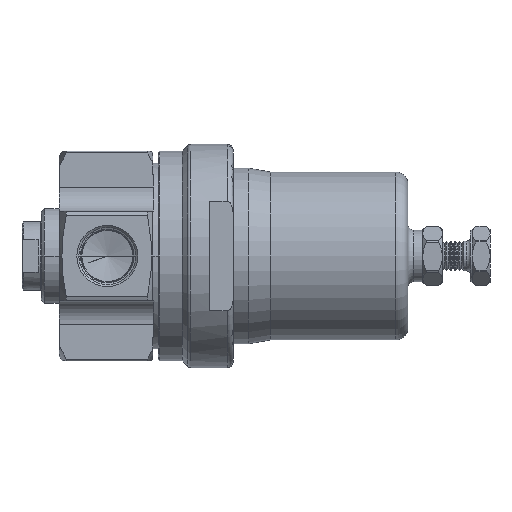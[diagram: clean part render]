
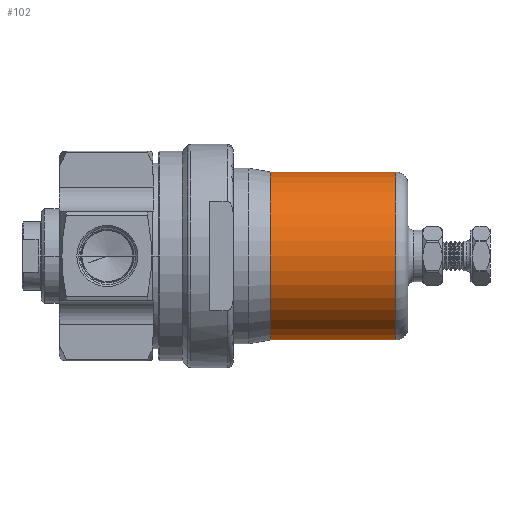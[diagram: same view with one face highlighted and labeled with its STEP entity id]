
A CAD part, front view. The second image highlights one B-rep face of the part: STEP entity #102.
In plain terms, the highlighted cylindrical face has radius 17.78 mm (diameter 35.56 mm), a partial arc.
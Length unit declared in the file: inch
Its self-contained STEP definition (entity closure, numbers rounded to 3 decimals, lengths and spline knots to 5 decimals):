
#102 = ADVANCED_FACE ( 'NONE', ( #8490 ), #8657, .T. ) ;
#442 = EDGE_LOOP ( 'NONE', ( #6661, #883, #4037, #6287 ) ) ;
#616 = VERTEX_POINT ( 'NONE', #2454 ) ;
#690 = EDGE_CURVE ( 'NONE', #3302, #9272, #10650, .T. ) ;
#714 = DIRECTION ( 'NONE',  ( -1., 0., 0. ) ) ;
#883 = ORIENTED_EDGE ( 'NONE', *, *, #7159, .T. ) ;
#1305 = AXIS2_PLACEMENT_3D ( 'NONE', #11556, #6055, #11499 ) ;
#1859 = DIRECTION ( 'NONE',  ( -1., 0., 0. ) ) ;
#2019 = DIRECTION ( 'NONE',  ( 0., 1., 0. ) ) ;
#2074 = CARTESIAN_POINT ( 'NONE',  ( 1.225, 0., 0. ) ) ;
#2454 = CARTESIAN_POINT ( 'NONE',  ( 2.955, -0.7, 0. ) ) ;
#2981 = DIRECTION ( 'NONE',  ( -1., 0., 0. ) ) ;
#3237 = AXIS2_PLACEMENT_3D ( 'NONE', #9003, #714, #4420 ) ;
#3302 = VERTEX_POINT ( 'NONE', #5990 ) ;
#4037 = ORIENTED_EDGE ( 'NONE', *, *, #4093, .F. ) ;
#4093 = EDGE_CURVE ( 'NONE', #9272, #6911, #6548, .T. ) ;
#4401 = CIRCLE ( 'NONE', #3237, 0.7 ) ;
#4420 = DIRECTION ( 'NONE',  ( 0., 1., 0. ) ) ;
#5030 = DIRECTION ( 'NONE',  ( -1., 0., 0. ) ) ;
#5990 = CARTESIAN_POINT ( 'NONE',  ( 2.955, 0.7, 0. ) ) ;
#6050 = CARTESIAN_POINT ( 'NONE',  ( 1.225, 0.7, 0. ) ) ;
#6055 = DIRECTION ( 'NONE',  ( -1., 0., 0. ) ) ;
#6287 = ORIENTED_EDGE ( 'NONE', *, *, #690, .F. ) ;
#6415 = LINE ( 'NONE', #9968, #8746 ) ;
#6548 = CIRCLE ( 'NONE', #1305, 0.7 ) ;
#6661 = ORIENTED_EDGE ( 'NONE', *, *, #9363, .T. ) ;
#6911 = VERTEX_POINT ( 'NONE', #8470 ) ;
#7159 = EDGE_CURVE ( 'NONE', #616, #6911, #6415, .T. ) ;
#8470 = CARTESIAN_POINT ( 'NONE',  ( 1.90932, -0.7, 0. ) ) ;
#8490 = FACE_OUTER_BOUND ( 'NONE', #442, .T. ) ;
#8657 = CYLINDRICAL_SURFACE ( 'NONE', #9495, 0.7 ) ;
#8746 = VECTOR ( 'NONE', #1859, 39.37008 ) ;
#8941 = CARTESIAN_POINT ( 'NONE',  ( 1.90932, 0.7, 0. ) ) ;
#9003 = CARTESIAN_POINT ( 'NONE',  ( 2.955, 0., 0. ) ) ;
#9272 = VERTEX_POINT ( 'NONE', #8941 ) ;
#9363 = EDGE_CURVE ( 'NONE', #3302, #616, #4401, .T. ) ;
#9495 = AXIS2_PLACEMENT_3D ( 'NONE', #2074, #2981, #2019 ) ;
#9968 = CARTESIAN_POINT ( 'NONE',  ( 1.225, -0.7, 0. ) ) ;
#10475 = VECTOR ( 'NONE', #5030, 39.37008 ) ;
#10650 = LINE ( 'NONE', #6050, #10475 ) ;
#11499 = DIRECTION ( 'NONE',  ( 0., 1., 0. ) ) ;
#11556 = CARTESIAN_POINT ( 'NONE',  ( 1.90932, 0., 0. ) ) ;
